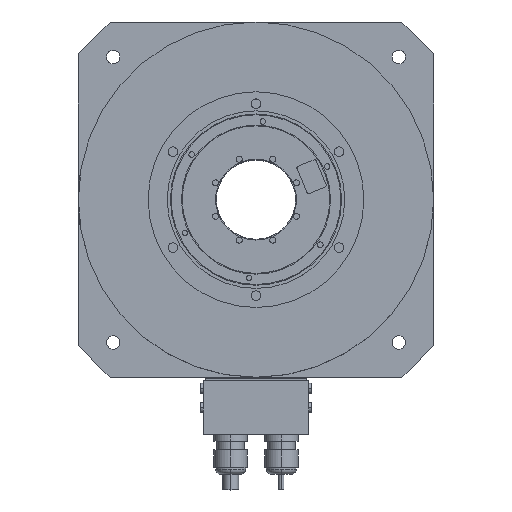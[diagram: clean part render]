
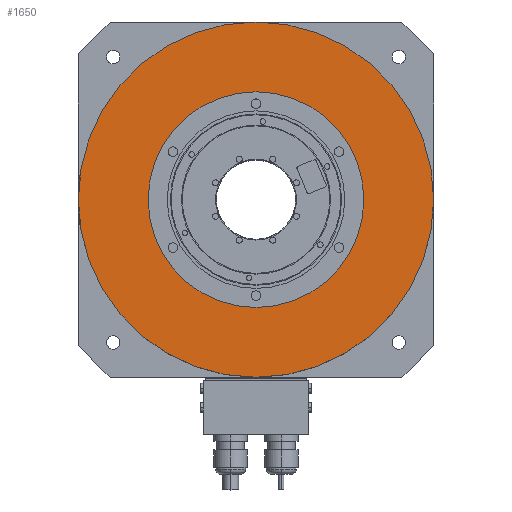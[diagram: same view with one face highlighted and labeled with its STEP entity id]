
A CAD part, top view. The second image highlights one B-rep face of the part: STEP entity #1650.
In plain terms, the highlighted planar face has unit normal (0, 0, 1).
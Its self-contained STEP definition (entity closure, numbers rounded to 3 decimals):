
#1585 = EDGE_CURVE ( 'NONE', #3206, #3199, #5471, .T. ) ;
#1589 = EDGE_LOOP ( 'NONE', ( #1646, #1653 ) ) ;
#1639 = ORIENTED_EDGE ( 'NONE', *, *, #1585, .T. ) ;
#1646 = ORIENTED_EDGE ( 'NONE', *, *, #3099, .F. ) ;
#1648 = ORIENTED_EDGE ( 'NONE', *, *, #3201, .T. ) ;
#1650 = ADVANCED_FACE ( 'NONE', ( #5527, #5522 ), #5584, .F. ) ;
#1653 = ORIENTED_EDGE ( 'NONE', *, *, #1655, .F. ) ;
#1654 = EDGE_LOOP ( 'NONE', ( #1648, #1639 ) ) ;
#1655 = EDGE_CURVE ( 'NONE', #3165, #2974, #5569, .T. ) ;
#2974 = VERTEX_POINT ( 'NONE', #6132 ) ;
#3099 = EDGE_CURVE ( 'NONE', #2974, #3165, #6375, .T. ) ;
#3165 = VERTEX_POINT ( 'NONE', #6549 ) ;
#3199 = VERTEX_POINT ( 'NONE', #6305 ) ;
#3201 = EDGE_CURVE ( 'NONE', #3199, #3206, #6074, .T. ) ;
#3206 = VERTEX_POINT ( 'NONE', #6563 ) ;
#5464 = DIRECTION ( 'NONE',  ( 1., 0., 0. ) ) ;
#5465 = DIRECTION ( 'NONE',  ( 0., 0., 1. ) ) ;
#5466 = CARTESIAN_POINT ( 'NONE',  ( 0., 0., 59. ) ) ;
#5467 = AXIS2_PLACEMENT_3D ( 'NONE', #5466, #5465, #5464 ) ;
#5471 = CIRCLE ( 'NONE', #5467, 112. ) ;
#5522 = FACE_OUTER_BOUND ( 'NONE', #1654, .T. ) ;
#5527 = FACE_BOUND ( 'NONE', #1589, .T. ) ;
#5555 = DIRECTION ( 'NONE',  ( 1., 0., 0. ) ) ;
#5556 = DIRECTION ( 'NONE',  ( 0., 0., 1. ) ) ;
#5557 = CARTESIAN_POINT ( 'NONE',  ( 0., 0., 59. ) ) ;
#5558 = AXIS2_PLACEMENT_3D ( 'NONE', #5557, #5556, #5555 ) ;
#5562 = DIRECTION ( 'NONE',  ( -1., 0., 0. ) ) ;
#5569 = CIRCLE ( 'NONE', #5558, 68. ) ;
#5571 = DIRECTION ( 'NONE',  ( 0., 0., -1. ) ) ;
#5572 = CARTESIAN_POINT ( 'NONE',  ( 0., -68., 59. ) ) ;
#5581 = AXIS2_PLACEMENT_3D ( 'NONE', #5572, #5571, #5562 ) ;
#5584 = PLANE ( 'NONE',  #5581 ) ;
#6061 = CARTESIAN_POINT ( 'NONE',  ( 0., 0., 59. ) ) ;
#6062 = AXIS2_PLACEMENT_3D ( 'NONE', #6061, #6064, #6063 ) ;
#6063 = DIRECTION ( 'NONE',  ( 1., 0., 0. ) ) ;
#6064 = DIRECTION ( 'NONE',  ( 0., 0., 1. ) ) ;
#6074 = CIRCLE ( 'NONE', #6062, 112. ) ;
#6132 = CARTESIAN_POINT ( 'NONE',  ( 68., 0., 59. ) ) ;
#6305 = CARTESIAN_POINT ( 'NONE',  ( 112., 0., 59. ) ) ;
#6375 = CIRCLE ( 'NONE', #6422, 68. ) ;
#6413 = DIRECTION ( 'NONE',  ( 1., 0., 0. ) ) ;
#6414 = DIRECTION ( 'NONE',  ( 0., 0., 1. ) ) ;
#6415 = CARTESIAN_POINT ( 'NONE',  ( 0., 0., 59. ) ) ;
#6422 = AXIS2_PLACEMENT_3D ( 'NONE', #6415, #6414, #6413 ) ;
#6549 = CARTESIAN_POINT ( 'NONE',  ( -68., 0., 59. ) ) ;
#6563 = CARTESIAN_POINT ( 'NONE',  ( -112., 0., 59. ) ) ;
